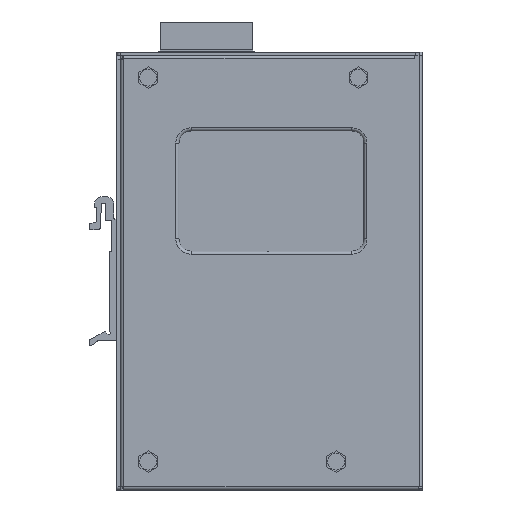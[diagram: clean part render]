
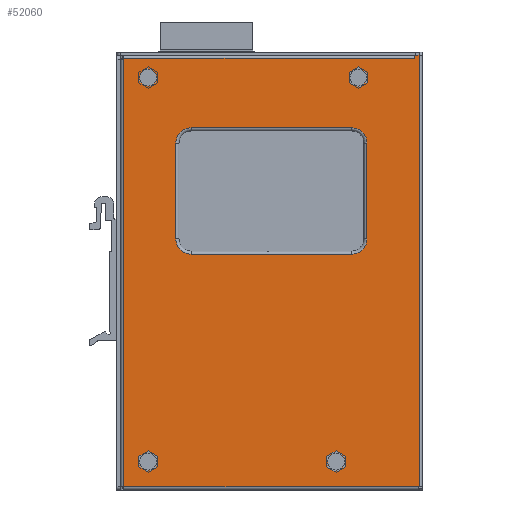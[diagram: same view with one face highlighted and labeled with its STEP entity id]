
A CAD part, left-side view. The second image highlights one B-rep face of the part: STEP entity #52060.
In plain terms, the highlighted planar face has unit normal (-1, 0, 0).
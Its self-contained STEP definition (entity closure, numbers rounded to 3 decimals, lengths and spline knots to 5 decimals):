
#1005=LINE('',#77098,#6582);
#1048=LINE('',#77213,#6625);
#1049=LINE('',#77221,#6626);
#1050=LINE('',#77229,#6627);
#1051=LINE('',#77235,#6628);
#1165=LINE('',#77600,#6742);
#1168=LINE('',#77610,#6745);
#1171=LINE('',#77615,#6748);
#1182=LINE('',#77647,#6759);
#1184=LINE('',#77653,#6761);
#1250=LINE('',#78595,#6827);
#1252=LINE('',#78601,#6829);
#1253=LINE('',#78603,#6830);
#1254=LINE('',#78605,#6831);
#6582=VECTOR('',#62306,1.);
#6625=VECTOR('',#62411,1.);
#6626=VECTOR('',#62422,1.);
#6627=VECTOR('',#62433,1.);
#6628=VECTOR('',#62442,1.);
#6742=VECTOR('',#62810,1.);
#6745=VECTOR('',#62821,1.);
#6748=VECTOR('',#62826,1.);
#6759=VECTOR('',#62865,1.);
#6761=VECTOR('',#62871,1.);
#6827=VECTOR('',#63959,1.);
#6829=VECTOR('',#63967,1.);
#6830=VECTOR('',#63970,1.);
#6831=VECTOR('',#63971,1.);
#12119=PLANE('',#56580);
#18155=ORIENTED_EDGE('',*,*,#30292,.F.);
#18156=ORIENTED_EDGE('',*,*,#30290,.T.);
#18157=ORIENTED_EDGE('',*,*,#30288,.F.);
#18158=ORIENTED_EDGE('',*,*,#30286,.T.);
#18159=ORIENTED_EDGE('',*,*,#30284,.F.);
#18160=ORIENTED_EDGE('',*,*,#30282,.T.);
#18161=ORIENTED_EDGE('',*,*,#30280,.F.);
#18162=ORIENTED_EDGE('',*,*,#30293,.T.);
#18163=ORIENTED_EDGE('',*,*,#30379,.F.);
#18164=ORIENTED_EDGE('',*,*,#30377,.F.);
#18165=ORIENTED_EDGE('',*,*,#30375,.F.);
#18166=ORIENTED_EDGE('',*,*,#30373,.F.);
#18167=ORIENTED_EDGE('',*,*,#30893,.T.);
#18168=ORIENTED_EDGE('',*,*,#30494,.T.);
#18169=ORIENTED_EDGE('',*,*,#30491,.T.);
#18170=ORIENTED_EDGE('',*,*,#30475,.T.);
#18171=ORIENTED_EDGE('',*,*,#30472,.F.);
#18172=ORIENTED_EDGE('',*,*,#30225,.T.);
#18173=ORIENTED_EDGE('',*,*,#30467,.T.);
#18174=ORIENTED_EDGE('',*,*,#30889,.F.);
#18175=ORIENTED_EDGE('',*,*,#30892,.T.);
#18176=ORIENTED_EDGE('',*,*,#30894,.F.);
#30225=EDGE_CURVE('',#37148,#37146,#1005,.T.);
#30280=EDGE_CURVE('',#37187,#37186,#41621,.T.);
#30282=EDGE_CURVE('',#37188,#37186,#1048,.T.);
#30284=EDGE_CURVE('',#37188,#37189,#41624,.T.);
#30286=EDGE_CURVE('',#37190,#37189,#1049,.T.);
#30288=EDGE_CURVE('',#37190,#37191,#41627,.T.);
#30290=EDGE_CURVE('',#37192,#37191,#1050,.T.);
#30292=EDGE_CURVE('',#37192,#37193,#41630,.T.);
#30293=EDGE_CURVE('',#37187,#37193,#1051,.T.);
#30373=EDGE_CURVE('',#37247,#37247,#41648,.T.);
#30375=EDGE_CURVE('',#37249,#37249,#41650,.T.);
#30377=EDGE_CURVE('',#37251,#37251,#41652,.T.);
#30379=EDGE_CURVE('',#37253,#37253,#41654,.T.);
#30467=EDGE_CURVE('',#37146,#37318,#1165,.T.);
#30472=EDGE_CURVE('',#37148,#37319,#1168,.T.);
#30475=EDGE_CURVE('',#37322,#37319,#1171,.T.);
#30491=EDGE_CURVE('',#37329,#37322,#1182,.T.);
#30494=EDGE_CURVE('',#37331,#37329,#1184,.T.);
#30889=EDGE_CURVE('',#37696,#37318,#1250,.T.);
#30892=EDGE_CURVE('',#37696,#37686,#1252,.T.);
#30893=EDGE_CURVE('',#37697,#37331,#1253,.T.);
#30894=EDGE_CURVE('',#37697,#37686,#1254,.T.);
#37146=VERTEX_POINT('',#77096);
#37148=VERTEX_POINT('',#77099);
#37186=VERTEX_POINT('',#77206);
#37187=VERTEX_POINT('',#77208);
#37188=VERTEX_POINT('',#77212);
#37189=VERTEX_POINT('',#77216);
#37190=VERTEX_POINT('',#77220);
#37191=VERTEX_POINT('',#77224);
#37192=VERTEX_POINT('',#77228);
#37193=VERTEX_POINT('',#77232);
#37247=VERTEX_POINT('',#77400);
#37249=VERTEX_POINT('',#77405);
#37251=VERTEX_POINT('',#77410);
#37253=VERTEX_POINT('',#77415);
#37318=VERTEX_POINT('',#77601);
#37319=VERTEX_POINT('',#77607);
#37322=VERTEX_POINT('',#77616);
#37329=VERTEX_POINT('',#77648);
#37331=VERTEX_POINT('',#77654);
#37686=VERTEX_POINT('',#78561);
#37696=VERTEX_POINT('',#78596);
#37697=VERTEX_POINT('',#78604);
#41621=CIRCLE('',#55901,0.005);
#41624=CIRCLE('',#55906,0.005);
#41627=CIRCLE('',#55911,0.005);
#41630=CIRCLE('',#55916,0.005);
#41648=CIRCLE('',#55966,0.00275);
#41650=CIRCLE('',#55969,0.00275);
#41652=CIRCLE('',#55972,0.00275);
#41654=CIRCLE('',#55975,0.00275);
#44395=EDGE_LOOP('',(#18155,#18156,#18157,#18158,#18159,#18160,#18161,#18162));
#44396=EDGE_LOOP('',(#18163));
#44397=EDGE_LOOP('',(#18164));
#44398=EDGE_LOOP('',(#18165));
#44399=EDGE_LOOP('',(#18166));
#44400=EDGE_LOOP('',(#18167,#18168,#18169,#18170,#18171,#18172,#18173,#18174,
#18175,#18176));
#48568=FACE_BOUND('',#44395,.T.);
#48569=FACE_BOUND('',#44396,.T.);
#48570=FACE_BOUND('',#44397,.T.);
#48571=FACE_BOUND('',#44398,.T.);
#48572=FACE_BOUND('',#44399,.T.);
#48573=FACE_BOUND('',#44400,.T.);
#52060=ADVANCED_FACE('',(#48568,#48569,#48570,#48571,#48572,#48573),#12119,
 .T.);
#55901=AXIS2_PLACEMENT_3D('',#77209,#62405,#62406);
#55906=AXIS2_PLACEMENT_3D('',#77217,#62416,#62417);
#55911=AXIS2_PLACEMENT_3D('',#77225,#62427,#62428);
#55916=AXIS2_PLACEMENT_3D('',#77233,#62438,#62439);
#55966=AXIS2_PLACEMENT_3D('',#77399,#62601,#62602);
#55969=AXIS2_PLACEMENT_3D('',#77404,#62607,#62608);
#55972=AXIS2_PLACEMENT_3D('',#77409,#62613,#62614);
#55975=AXIS2_PLACEMENT_3D('',#77414,#62619,#62620);
#56580=AXIS2_PLACEMENT_3D('',#78602,#63968,#63969);
#62306=DIRECTION('',(0.,1.,0.));
#62405=DIRECTION('',(-1.,0.,0.));
#62406=DIRECTION('',(0.,0.,1.));
#62411=DIRECTION('',(0.,0.,1.));
#62416=DIRECTION('',(-1.,0.,0.));
#62417=DIRECTION('',(0.,1.,0.));
#62422=DIRECTION('',(0.,1.,0.));
#62427=DIRECTION('',(-1.,0.,0.));
#62428=DIRECTION('',(0.,0.,-1.));
#62433=DIRECTION('',(0.,0.,-1.));
#62438=DIRECTION('',(-1.,0.,0.));
#62439=DIRECTION('',(0.,-1.,0.));
#62442=DIRECTION('',(0.,-1.,0.));
#62601=DIRECTION('',(-1.,0.,0.));
#62602=DIRECTION('',(0.,0.,1.));
#62607=DIRECTION('',(-1.,0.,0.));
#62608=DIRECTION('',(0.,0.,1.));
#62613=DIRECTION('',(-1.,0.,0.));
#62614=DIRECTION('',(0.,0.,1.));
#62619=DIRECTION('',(-1.,0.,0.));
#62620=DIRECTION('',(0.,0.,1.));
#62810=DIRECTION('',(0.,1.,0.));
#62821=DIRECTION('',(0.,0.,1.));
#62826=DIRECTION('',(0.,1.,0.));
#62865=DIRECTION('',(0.,0.,1.));
#62871=DIRECTION('',(0.,-1.,0.));
#63959=DIRECTION('',(0.,0.,1.));
#63967=DIRECTION('',(0.,0.,-1.));
#63968=DIRECTION('',(-1.,0.,0.));
#63969=DIRECTION('',(0.,-1.,0.));
#63970=DIRECTION('',(0.,-1.,0.));
#63971=DIRECTION('',(0.,0.,1.));
#77096=CARTESIAN_POINT('',(0.03982,-0.08638,0.0839));
#77098=CARTESIAN_POINT('',(0.03982,-0.08888,0.0839));
#77099=CARTESIAN_POINT('',(0.03982,-0.08639,0.0839));
#77206=CARTESIAN_POINT('',(0.03982,-0.00898,0.0564));
#77208=CARTESIAN_POINT('',(0.03982,-0.01398,0.0614));
#77209=CARTESIAN_POINT('',(0.03982,-0.01398,0.0564));
#77212=CARTESIAN_POINT('',(0.03982,-0.00898,0.0254));
#77213=CARTESIAN_POINT('',(0.03982,-0.00898,0.0254));
#77216=CARTESIAN_POINT('',(0.03982,-0.01398,0.0204));
#77217=CARTESIAN_POINT('',(0.03982,-0.01398,0.0254));
#77220=CARTESIAN_POINT('',(0.03982,-0.06598,0.0204));
#77221=CARTESIAN_POINT('',(0.03982,-0.06598,0.0204));
#77224=CARTESIAN_POINT('',(0.03982,-0.07098,0.0254));
#77225=CARTESIAN_POINT('',(0.03982,-0.06598,0.0254));
#77228=CARTESIAN_POINT('',(0.03982,-0.07098,0.0564));
#77229=CARTESIAN_POINT('',(0.03982,-0.07098,0.0564));
#77232=CARTESIAN_POINT('',(0.03982,-0.06598,0.0614));
#77233=CARTESIAN_POINT('',(0.03982,-0.06598,0.0564));
#77235=CARTESIAN_POINT('',(0.03982,-0.01398,0.0614));
#77399=CARTESIAN_POINT('',(0.03982,-0.0682,0.07772));
#77400=CARTESIAN_POINT('',(0.03982,-0.0682,0.08047));
#77404=CARTESIAN_POINT('',(0.03982,-0.06096,-0.04687));
#77405=CARTESIAN_POINT('',(0.03982,-0.06096,-0.04412));
#77409=CARTESIAN_POINT('',(0.03982,0.,-0.04687));
#77410=CARTESIAN_POINT('',(0.03982,0.,-0.04412));
#77414=CARTESIAN_POINT('',(0.03982,0.,0.07772));
#77415=CARTESIAN_POINT('',(0.03982,0.,0.08047));
#77600=CARTESIAN_POINT('',(0.03982,-0.08638,0.0839));
#77601=CARTESIAN_POINT('',(0.03982,0.00792,0.0839));
#77607=CARTESIAN_POINT('',(0.03982,-0.08639,0.0849));
#77610=CARTESIAN_POINT('',(0.03982,-0.08639,0.07772));
#77615=CARTESIAN_POINT('',(0.03982,-0.08888,0.0849));
#77616=CARTESIAN_POINT('',(0.03982,-0.08788,0.0849));
#77647=CARTESIAN_POINT('',(0.03982,-0.08788,-0.0551));
#77648=CARTESIAN_POINT('',(0.03982,-0.08788,-0.0551));
#77653=CARTESIAN_POINT('',(0.03982,-0.08888,-0.0551));
#77654=CARTESIAN_POINT('',(0.03982,-0.08768,-0.0551));
#78561=CARTESIAN_POINT('',(0.03982,0.00792,-0.0549));
#78595=CARTESIAN_POINT('',(0.03982,0.00792,-0.0551));
#78596=CARTESIAN_POINT('',(0.03982,0.00792,0.0837));
#78601=CARTESIAN_POINT('',(0.03982,0.00792,0.0837));
#78602=CARTESIAN_POINT('',(0.03982,-0.08888,0.07772));
#78603=CARTESIAN_POINT('',(0.03982,0.00792,-0.0551));
#78604=CARTESIAN_POINT('',(0.03982,0.00792,-0.0551));
#78605=CARTESIAN_POINT('',(0.03982,0.00792,-0.0551));
